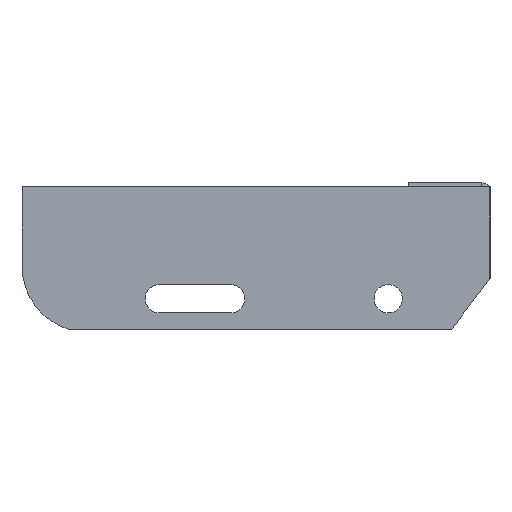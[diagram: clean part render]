
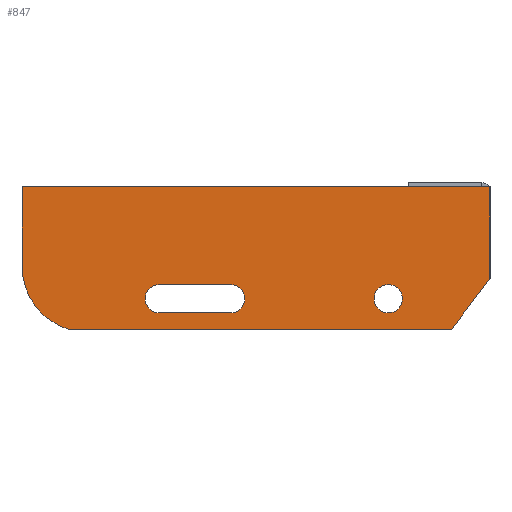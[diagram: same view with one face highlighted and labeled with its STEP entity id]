
A CAD part, left-side view. The second image highlights one B-rep face of the part: STEP entity #847.
In plain terms, the highlighted planar face has unit normal (-1, 0, 0) as drawn and (0, 0, 1) by its records, which use the part's own axes.
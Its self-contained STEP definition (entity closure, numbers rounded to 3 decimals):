
#16 = LINE ( 'NONE', #1566, #930 ) ;
#24 = CARTESIAN_POINT ( 'NONE',  ( -18.839, -70., 3. ) ) ;
#27 = EDGE_LOOP ( 'NONE', ( #1962, #1615 ) ) ;
#28 = DIRECTION ( 'NONE',  ( 1., 0., 0. ) ) ;
#120 = CARTESIAN_POINT ( 'NONE',  ( -162.5, -62., 3. ) ) ;
#145 = AXIS2_PLACEMENT_3D ( 'NONE', #820, #635, #1090 ) ;
#159 = EDGE_CURVE ( 'NONE', #1288, #853, #1493, .T. ) ;
#198 = DIRECTION ( 'NONE',  ( 1., 0., 0. ) ) ;
#200 = CARTESIAN_POINT ( 'NONE',  ( -162.5, -48., 3. ) ) ;
#236 = VERTEX_POINT ( 'NONE', #1995 ) ;
#256 = DIRECTION ( 'NONE',  ( 1., 0., 0. ) ) ;
#268 = AXIS2_PLACEMENT_3D ( 'NONE', #331, #1719, #28 ) ;
#270 = EDGE_CURVE ( 'NONE', #553, #811, #625, .T. ) ;
#326 = CARTESIAN_POINT ( 'NONE',  ( -230., 0., 3. ) ) ;
#331 = CARTESIAN_POINT ( 'NONE',  ( -197.5, -39., 3. ) ) ;
#334 = LINE ( 'NONE', #326, #1240 ) ;
#358 = DIRECTION ( 'NONE',  ( 1., 0., 0. ) ) ;
#397 = CARTESIAN_POINT ( 'NONE',  ( -18.839, -70., 3. ) ) ;
#425 = ORIENTED_EDGE ( 'NONE', *, *, #1638, .F. ) ;
#429 = EDGE_CURVE ( 'NONE', #1998, #1315, #715, .T. ) ;
#451 = CARTESIAN_POINT ( 'NONE',  ( -230., -39., 3. ) ) ;
#455 = AXIS2_PLACEMENT_3D ( 'NONE', #1710, #1133, #256 ) ;
#467 = ORIENTED_EDGE ( 'NONE', *, *, #1508, .T. ) ;
#486 = VERTEX_POINT ( 'NONE', #24 ) ;
#498 = DIRECTION ( 'NONE',  ( 0., 0., 1. ) ) ;
#502 = DIRECTION ( 'NONE',  ( 1., 0., 0. ) ) ;
#516 = CARTESIAN_POINT ( 'NONE',  ( -230., 0., 3. ) ) ;
#539 = DIRECTION ( 'NONE',  ( 0., 0., 1. ) ) ;
#542 = ORIENTED_EDGE ( 'NONE', *, *, #861, .T. ) ;
#553 = VERTEX_POINT ( 'NONE', #701 ) ;
#583 = VECTOR ( 'NONE', #358, 1000. ) ;
#616 = AXIS2_PLACEMENT_3D ( 'NONE', #961, #773, #502 ) ;
#625 = LINE ( 'NONE', #918, #910 ) ;
#635 = DIRECTION ( 'NONE',  ( 0., 0., 1. ) ) ;
#647 = CARTESIAN_POINT ( 'NONE',  ( -207.26, -70., 3. ) ) ;
#651 = DIRECTION ( 'NONE',  ( -1., 0., 0. ) ) ;
#692 = EDGE_CURVE ( 'NONE', #834, #1288, #1524, .T. ) ;
#699 = VERTEX_POINT ( 'NONE', #1373 ) ;
#701 = CARTESIAN_POINT ( 'NONE',  ( 0., -45., 3. ) ) ;
#715 = CIRCLE ( 'NONE', #1401, 7. ) ;
#738 = VERTEX_POINT ( 'NONE', #516 ) ;
#773 = DIRECTION ( 'NONE',  ( 0., 0., 1. ) ) ;
#776 = EDGE_CURVE ( 'NONE', #1854, #1450, #891, .T. ) ;
#811 = VERTEX_POINT ( 'NONE', #1297 ) ;
#812 = DIRECTION ( 'NONE',  ( 1., 0., 0. ) ) ;
#820 = CARTESIAN_POINT ( 'NONE',  ( -162.5, -55., 3. ) ) ;
#827 = LINE ( 'NONE', #1139, #1073 ) ;
#834 = VERTEX_POINT ( 'NONE', #1103 ) ;
#835 = CARTESIAN_POINT ( 'NONE',  ( -50., -55., 3. ) ) ;
#847 = ADVANCED_FACE ( 'NONE', ( #935, #965, #1906 ), #1436, .T. ) ;
#853 = VERTEX_POINT ( 'NONE', #1132 ) ;
#861 = EDGE_CURVE ( 'NONE', #811, #738, #16, .T. ) ;
#891 = CIRCLE ( 'NONE', #1229, 32.5 ) ;
#910 = VECTOR ( 'NONE', #1546, 1000. ) ;
#918 = CARTESIAN_POINT ( 'NONE',  ( 0., 0., 3. ) ) ;
#926 = EDGE_CURVE ( 'NONE', #699, #236, #1094, .T. ) ;
#930 = VECTOR ( 'NONE', #651, 1000. ) ;
#935 = FACE_OUTER_BOUND ( 'NONE', #1028, .T. ) ;
#958 = ORIENTED_EDGE ( 'NONE', *, *, #1597, .T. ) ;
#961 = CARTESIAN_POINT ( 'NONE',  ( -50., -55., 3. ) ) ;
#965 = FACE_BOUND ( 'NONE', #27, .T. ) ;
#977 = ORIENTED_EDGE ( 'NONE', *, *, #1949, .T. ) ;
#998 = CARTESIAN_POINT ( 'NONE',  ( -162.5, -55., 3. ) ) ;
#1007 = VECTOR ( 'NONE', #1321, 1000. ) ;
#1017 = LINE ( 'NONE', #397, #583 ) ;
#1028 = EDGE_LOOP ( 'NONE', ( #1245, #542, #977, #1598, #958, #467 ) ) ;
#1059 = CARTESIAN_POINT ( 'NONE',  ( -127.5, -62., 3. ) ) ;
#1073 = VECTOR ( 'NONE', #1440, 1000. ) ;
#1090 = DIRECTION ( 'NONE',  ( 1., 0., 0. ) ) ;
#1094 = CIRCLE ( 'NONE', #1349, 7. ) ;
#1099 = CARTESIAN_POINT ( 'NONE',  ( -43., -55., 3. ) ) ;
#1103 = CARTESIAN_POINT ( 'NONE',  ( -162.5, -62., 3. ) ) ;
#1131 = ORIENTED_EDGE ( 'NONE', *, *, #926, .F. ) ;
#1132 = CARTESIAN_POINT ( 'NONE',  ( -127.5, -48., 3. ) ) ;
#1133 = DIRECTION ( 'NONE',  ( 0., 0., 1. ) ) ;
#1139 = CARTESIAN_POINT ( 'NONE',  ( 0., -45., 3. ) ) ;
#1187 = ORIENTED_EDGE ( 'NONE', *, *, #692, .F. ) ;
#1229 = AXIS2_PLACEMENT_3D ( 'NONE', #1889, #498, #812 ) ;
#1240 = VECTOR ( 'NONE', #1243, 1000. ) ;
#1243 = DIRECTION ( 'NONE',  ( 0., -1., 0. ) ) ;
#1245 = ORIENTED_EDGE ( 'NONE', *, *, #270, .T. ) ;
#1263 = CARTESIAN_POINT ( 'NONE',  ( -57., -55., 3. ) ) ;
#1288 = VERTEX_POINT ( 'NONE', #1059 ) ;
#1297 = CARTESIAN_POINT ( 'NONE',  ( 0., 0., 3. ) ) ;
#1314 = LINE ( 'NONE', #200, #1007 ) ;
#1315 = VERTEX_POINT ( 'NONE', #1263 ) ;
#1321 = DIRECTION ( 'NONE',  ( -1., 0., 0. ) ) ;
#1349 = AXIS2_PLACEMENT_3D ( 'NONE', #998, #539, #1627 ) ;
#1373 = CARTESIAN_POINT ( 'NONE',  ( -162.5, -48., 3. ) ) ;
#1380 = ORIENTED_EDGE ( 'NONE', *, *, #159, .F. ) ;
#1401 = AXIS2_PLACEMENT_3D ( 'NONE', #835, #1768, #198 ) ;
#1436 = PLANE ( 'NONE',  #268 ) ;
#1440 = DIRECTION ( 'NONE',  ( 0.602, 0.799, 0. ) ) ;
#1450 = VERTEX_POINT ( 'NONE', #647 ) ;
#1475 = EDGE_CURVE ( 'NONE', #236, #834, #1778, .T. ) ;
#1490 = CIRCLE ( 'NONE', #616, 7. ) ;
#1493 = CIRCLE ( 'NONE', #455, 7. ) ;
#1495 = EDGE_LOOP ( 'NONE', ( #1187, #1773, #1131, #425, #1380 ) ) ;
#1508 = EDGE_CURVE ( 'NONE', #486, #553, #827, .T. ) ;
#1524 = LINE ( 'NONE', #120, #2014 ) ;
#1546 = DIRECTION ( 'NONE',  ( 0., 1., 0. ) ) ;
#1566 = CARTESIAN_POINT ( 'NONE',  ( 0., 0., 3. ) ) ;
#1597 = EDGE_CURVE ( 'NONE', #1450, #486, #1017, .T. ) ;
#1598 = ORIENTED_EDGE ( 'NONE', *, *, #776, .T. ) ;
#1615 = ORIENTED_EDGE ( 'NONE', *, *, #429, .F. ) ;
#1627 = DIRECTION ( 'NONE',  ( 1., 0., 0. ) ) ;
#1638 = EDGE_CURVE ( 'NONE', #853, #699, #1314, .T. ) ;
#1670 = DIRECTION ( 'NONE',  ( 1., 0., 0. ) ) ;
#1710 = CARTESIAN_POINT ( 'NONE',  ( -127.5, -55., 3. ) ) ;
#1719 = DIRECTION ( 'NONE',  ( 0., 0., 1. ) ) ;
#1768 = DIRECTION ( 'NONE',  ( 0., 0., 1. ) ) ;
#1773 = ORIENTED_EDGE ( 'NONE', *, *, #1475, .F. ) ;
#1778 = CIRCLE ( 'NONE', #145, 7. ) ;
#1854 = VERTEX_POINT ( 'NONE', #451 ) ;
#1889 = CARTESIAN_POINT ( 'NONE',  ( -197.5, -39., 3. ) ) ;
#1906 = FACE_BOUND ( 'NONE', #1495, .T. ) ;
#1949 = EDGE_CURVE ( 'NONE', #738, #1854, #334, .T. ) ;
#1962 = ORIENTED_EDGE ( 'NONE', *, *, #1984, .F. ) ;
#1984 = EDGE_CURVE ( 'NONE', #1315, #1998, #1490, .T. ) ;
#1995 = CARTESIAN_POINT ( 'NONE',  ( -169.5, -55., 3. ) ) ;
#1998 = VERTEX_POINT ( 'NONE', #1099 ) ;
#2014 = VECTOR ( 'NONE', #1670, 1000. ) ;
